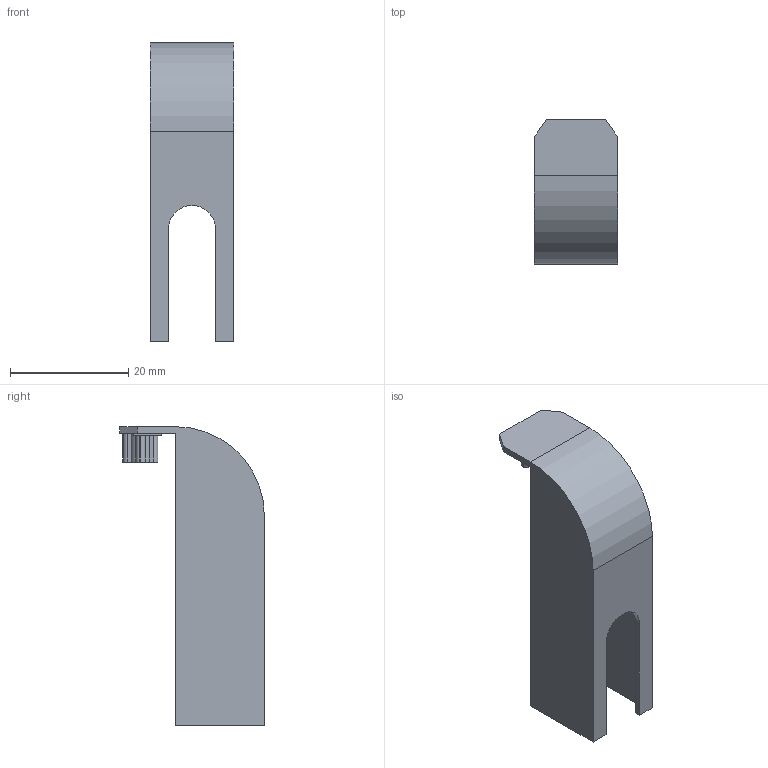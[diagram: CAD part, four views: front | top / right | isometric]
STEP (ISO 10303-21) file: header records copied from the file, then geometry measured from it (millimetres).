
FILE_DESCRIPTION (( 'STEP AP203' ), '1' );
FILE_NAME ('Êðûøêà êëåììíàÿ äëÿ ÷åòâåðòîãî ïîëþñà OptiSwitch DI-16-63 (äëÿ OptiSwitch DI-16-63Ñ-4_íèæíÿÿ, ïîëþñ ñëåâà).STEP', '2023-03-23T19:56:37', ( 'Ïîëüçîâàòåëü' ), ( '' ), 'SwSTEP 2.0', 'SolidWorks 2018', '' );
FILE_SCHEMA (( 'CONFIG_CONTROL_DESIGN' ));
Length unit declared in the file: millimetre
Products named in the file (2): Êðûøêà êëåììíàÿ äëÿ ÷åòâåðòîãî ïîëþñà OptiSwitch DI-16-63 (äëÿ OptiSwitch DI-16-63Ñ-4_íèæíÿÿ, ïîëþñ ñëåâà); Êðûøêà êëåììíàÿ äëÿ ÷åòâåðòîãî ïîëþñà OptiSwitch DI-16-63
Assembly tree (1 placements, depth 2):
  Êðûøêà êëåììíàÿ äëÿ ÷åòâåðòîãî ïîëþñà OptiSwitch DI-16-63 (äëÿ OptiSwitch DI-16-63Ñ-4_íèæíÿÿ, ïîëþñ ñëåâà)
    Êðûøêà êëåììíàÿ äëÿ ÷åòâåðòîãî ïîëþñà OptiSwitch DI-16-63
Bounding box: 14.2 x 24.5 x 50.6 mm (x, y, z)
Volume: 2121 mm3; surface area: 4586.3 mm2
Topology: 1 solids, 1 shells, 64 faces, 175 edges, 116 vertices
Faces by surface type: plane 49, cylinder 15
Entity records: 2209 total; most frequent: CARTESIAN_POINT 359, ORIENTED_EDGE 350, DIRECTION 341, EDGE_CURVE 175, VECTOR 145, LINE 145, VERTEX_POINT 116, AXIS2_PLACEMENT_3D 98
